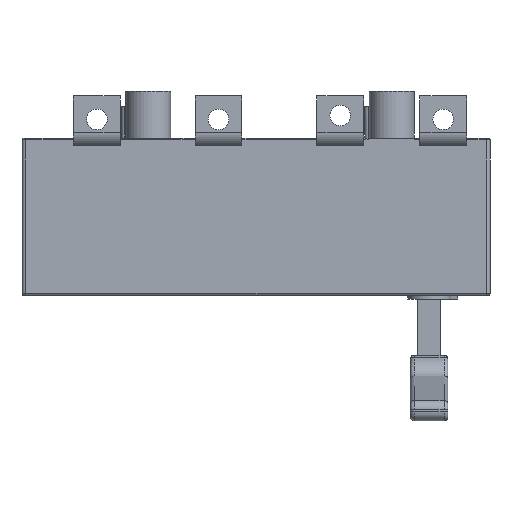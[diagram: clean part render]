
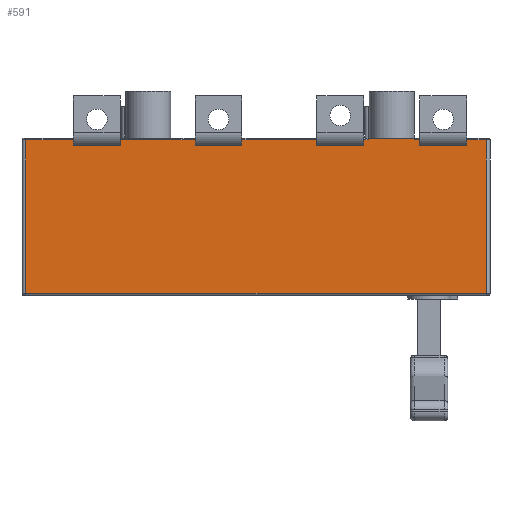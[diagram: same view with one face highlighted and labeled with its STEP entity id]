
A CAD part, front view. The second image highlights one B-rep face of the part: STEP entity #591.
In plain terms, the highlighted planar face has unit normal (0, -1, 0).
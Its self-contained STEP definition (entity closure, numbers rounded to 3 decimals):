
#178=PLANE('',#5112);
#591=ADVANCED_FACE('',(#900),#178,.T.);
#900=FACE_OUTER_BOUND('',#1239,.T.);
#1239=EDGE_LOOP('',(#2746,#2747,#2748,#2749,#2750,#2751,#2752,#2753,#2754,
#2755,#2756,#2757,#2758,#2759,#2760,#2761,#2762,#2763,#2764,#2765,#2766,
#2767,#2768,#2769,#2770,#2771));
#2746=ORIENTED_EDGE('',*,*,#3233,.F.);
#2747=ORIENTED_EDGE('',*,*,#3217,.F.);
#2748=ORIENTED_EDGE('',*,*,#3231,.F.);
#2749=ORIENTED_EDGE('',*,*,#3643,.T.);
#2750=ORIENTED_EDGE('',*,*,#3808,.T.);
#2751=ORIENTED_EDGE('',*,*,#3801,.F.);
#2752=ORIENTED_EDGE('',*,*,#3737,.F.);
#2753=ORIENTED_EDGE('',*,*,#3819,.T.);
#2754=ORIENTED_EDGE('',*,*,#3750,.T.);
#2755=ORIENTED_EDGE('',*,*,#3847,.T.);
#2756=ORIENTED_EDGE('',*,*,#3271,.T.);
#2757=ORIENTED_EDGE('',*,*,#3256,.F.);
#2758=ORIENTED_EDGE('',*,*,#3274,.T.);
#2759=ORIENTED_EDGE('',*,*,#3848,.T.);
#2760=ORIENTED_EDGE('',*,*,#3309,.F.);
#2761=ORIENTED_EDGE('',*,*,#3295,.F.);
#2762=ORIENTED_EDGE('',*,*,#3313,.F.);
#2763=ORIENTED_EDGE('',*,*,#3844,.T.);
#2764=ORIENTED_EDGE('',*,*,#3348,.F.);
#2765=ORIENTED_EDGE('',*,*,#3334,.F.);
#2766=ORIENTED_EDGE('',*,*,#3352,.F.);
#2767=ORIENTED_EDGE('',*,*,#3842,.T.);
#2768=ORIENTED_EDGE('',*,*,#3682,.F.);
#2769=ORIENTED_EDGE('',*,*,#3672,.T.);
#2770=ORIENTED_EDGE('',*,*,#3681,.T.);
#2771=ORIENTED_EDGE('',*,*,#3850,.T.);
#2789=VERTEX_POINT('',#6542);
#2790=VERTEX_POINT('',#6544);
#2799=VERTEX_POINT('',#6571);
#2800=VERTEX_POINT('',#6576);
#2818=VERTEX_POINT('',#6623);
#2820=VERTEX_POINT('',#6626);
#2829=VERTEX_POINT('',#6653);
#2831=VERTEX_POINT('',#6660);
#2849=VERTEX_POINT('',#6706);
#2850=VERTEX_POINT('',#6708);
#2859=VERTEX_POINT('',#6736);
#2861=VERTEX_POINT('',#6742);
#2879=VERTEX_POINT('',#6788);
#2880=VERTEX_POINT('',#6790);
#2889=VERTEX_POINT('',#6818);
#2891=VERTEX_POINT('',#6824);
#3084=VERTEX_POINT('',#7433);
#3086=VERTEX_POINT('',#7455);
#3093=VERTEX_POINT('',#7474);
#3103=VERTEX_POINT('',#7501);
#3107=VERTEX_POINT('',#7543);
#3155=VERTEX_POINT('',#7690);
#3156=VERTEX_POINT('',#7692);
#3163=VERTEX_POINT('',#7722);
#3166=VERTEX_POINT('',#7739);
#3201=VERTEX_POINT('',#7841);
#3217=EDGE_CURVE('',#2789,#2790,#3853,.T.);
#3231=EDGE_CURVE('',#2799,#2789,#3863,.T.);
#3233=EDGE_CURVE('',#2790,#2800,#3865,.T.);
#3256=EDGE_CURVE('',#2818,#2820,#3880,.T.);
#3271=EDGE_CURVE('',#2829,#2820,#3891,.T.);
#3274=EDGE_CURVE('',#2818,#2831,#3893,.T.);
#3295=EDGE_CURVE('',#2849,#2850,#3907,.T.);
#3309=EDGE_CURVE('',#2850,#2859,#3918,.T.);
#3313=EDGE_CURVE('',#2861,#2849,#3920,.T.);
#3334=EDGE_CURVE('',#2879,#2880,#3934,.T.);
#3348=EDGE_CURVE('',#2880,#2889,#3945,.T.);
#3352=EDGE_CURVE('',#2891,#2879,#3947,.T.);
#3643=EDGE_CURVE('',#2799,#3086,#4103,.T.);
#3672=EDGE_CURVE('',#3107,#3103,#4111,.T.);
#3681=EDGE_CURVE('',#3103,#3084,#4116,.T.);
#3682=EDGE_CURVE('',#3107,#3093,#4117,.T.);
#3737=EDGE_CURVE('',#3155,#3156,#4141,.T.);
#3750=EDGE_CURVE('',#3163,#3166,#4148,.T.);
#3801=EDGE_CURVE('',#3156,#3201,#4180,.T.);
#3808=EDGE_CURVE('',#3086,#3201,#4186,.T.);
#3819=EDGE_CURVE('',#3155,#3163,#4196,.T.);
#3842=EDGE_CURVE('',#2891,#3093,#4215,.T.);
#3844=EDGE_CURVE('',#2861,#2889,#4217,.T.);
#3847=EDGE_CURVE('',#3166,#2829,#4220,.T.);
#3848=EDGE_CURVE('',#2831,#2859,#4221,.T.);
#3850=EDGE_CURVE('',#3084,#2800,#4223,.T.);
#3853=LINE('',#6543,#4226);
#3863=LINE('',#6572,#4236);
#3865=LINE('',#6575,#4238);
#3880=LINE('',#6625,#4253);
#3891=LINE('',#6655,#4264);
#3893=LINE('',#6661,#4266);
#3907=LINE('',#6707,#4280);
#3918=LINE('',#6735,#4291);
#3920=LINE('',#6743,#4293);
#3934=LINE('',#6789,#4307);
#3945=LINE('',#6817,#4318);
#3947=LINE('',#6825,#4320);
#4103=LINE('',#7456,#4476);
#4111=LINE('',#7546,#4484);
#4116=LINE('',#7563,#4489);
#4117=LINE('',#7565,#4490);
#4141=LINE('',#7691,#4514);
#4148=LINE('',#7740,#4521);
#4180=LINE('',#7840,#4553);
#4186=LINE('',#7852,#4559);
#4196=LINE('',#7872,#4569);
#4215=LINE('',#7913,#4588);
#4217=LINE('',#7917,#4590);
#4220=LINE('',#7923,#4593);
#4221=LINE('',#7925,#4594);
#4223=LINE('',#7929,#4596);
#4226=VECTOR('',#5129,1.);
#4236=VECTOR('',#5157,1.);
#4238=VECTOR('',#5161,1.);
#4253=VECTOR('',#5206,1.);
#4264=VECTOR('',#5235,1.);
#4266=VECTOR('',#5241,1.);
#4280=VECTOR('',#5283,1.);
#4291=VECTOR('',#5310,1.);
#4293=VECTOR('',#5318,1.);
#4307=VECTOR('',#5360,1.);
#4318=VECTOR('',#5387,1.);
#4320=VECTOR('',#5395,1.);
#4476=VECTOR('',#6055,1.);
#4484=VECTOR('',#6119,1.);
#4489=VECTOR('',#6142,1.);
#4490=VECTOR('',#6145,1.);
#4514=VECTOR('',#6285,1.);
#4521=VECTOR('',#6306,1.);
#4553=VECTOR('',#6406,1.);
#4559=VECTOR('',#6418,1.);
#4569=VECTOR('',#6440,1.);
#4588=VECTOR('',#6495,1.);
#4590=VECTOR('',#6501,1.);
#4593=VECTOR('',#6510,1.);
#4594=VECTOR('',#6513,1.);
#4596=VECTOR('',#6519,1.);
#5112=AXIS2_PLACEMENT_3D('',#7930,#6520,#6521);
#5129=DIRECTION('',(1.,0.,0.));
#5157=DIRECTION('',(0.,0.,-1.));
#5161=DIRECTION('',(0.,0.,1.));
#5206=DIRECTION('',(1.,0.,0.));
#5235=DIRECTION('',(0.,0.,-1.));
#5241=DIRECTION('',(0.,0.,1.));
#5283=DIRECTION('',(1.,0.,0.));
#5310=DIRECTION('',(0.,0.,1.));
#5318=DIRECTION('',(0.,0.,-1.));
#5360=DIRECTION('',(1.,0.,0.));
#5387=DIRECTION('',(0.,0.,1.));
#5395=DIRECTION('',(0.,0.,-1.));
#6055=DIRECTION('',(-1.,0.,0.));
#6119=DIRECTION('',(1.,0.,0.));
#6142=DIRECTION('',(0.,0.,1.));
#6145=DIRECTION('',(0.,0.,1.));
#6285=DIRECTION('',(0.,0.,-1.));
#6306=DIRECTION('',(0.,0.,-1.));
#6406=DIRECTION('',(1.,0.,0.));
#6418=DIRECTION('',(0.,0.,1.));
#6440=DIRECTION('',(-1.,0.,0.));
#6495=DIRECTION('',(-1.,0.,0.));
#6501=DIRECTION('',(-1.,0.,0.));
#6510=DIRECTION('',(-1.,0.,0.));
#6513=DIRECTION('',(-1.,0.,0.));
#6519=DIRECTION('',(-1.,0.,0.));
#6520=DIRECTION('',(0.,-1.,0.));
#6521=DIRECTION('',(1.,0.,0.));
#6542=CARTESIAN_POINT('',(15.,-52.5,-4.118));
#6543=CARTESIAN_POINT('',(40.,-52.5,-4.118));
#6544=CARTESIAN_POINT('',(40.,-52.5,-4.118));
#6571=CARTESIAN_POINT('',(15.,-52.5,-1.));
#6572=CARTESIAN_POINT('',(15.,-52.5,4.));
#6575=CARTESIAN_POINT('',(40.,-52.5,4.));
#6576=CARTESIAN_POINT('',(40.,-52.5,-1.));
#6623=CARTESIAN_POINT('',(-40.,-52.5,-4.118));
#6625=CARTESIAN_POINT('',(-15.,-52.5,-4.118));
#6626=CARTESIAN_POINT('',(-15.,-52.5,-4.118));
#6653=CARTESIAN_POINT('',(-15.,-52.5,-1.));
#6655=CARTESIAN_POINT('',(-15.,-52.5,4.));
#6660=CARTESIAN_POINT('',(-40.,-52.5,-1.));
#6661=CARTESIAN_POINT('',(-40.,-52.5,4.));
#6706=CARTESIAN_POINT('',(-105.,-52.5,-4.118));
#6707=CARTESIAN_POINT('',(-80.,-52.5,-4.118));
#6708=CARTESIAN_POINT('',(-80.,-52.5,-4.118));
#6735=CARTESIAN_POINT('',(-80.,-52.5,4.));
#6736=CARTESIAN_POINT('',(-80.,-52.5,-1.));
#6742=CARTESIAN_POINT('',(-105.,-52.5,-1.));
#6743=CARTESIAN_POINT('',(-105.,-52.5,4.));
#6788=CARTESIAN_POINT('',(-170.,-52.5,-4.118));
#6789=CARTESIAN_POINT('',(-145.,-52.5,-4.118));
#6790=CARTESIAN_POINT('',(-145.,-52.5,-4.118));
#6817=CARTESIAN_POINT('',(-145.,-52.5,4.));
#6818=CARTESIAN_POINT('',(-145.,-52.5,-1.));
#6824=CARTESIAN_POINT('',(-170.,-52.5,-1.));
#6825=CARTESIAN_POINT('',(-170.,-52.5,4.));
#7433=CARTESIAN_POINT('',(50.5,-52.5,-1.));
#7455=CARTESIAN_POINT('',(12.,-52.5,-1.));
#7456=CARTESIAN_POINT('',(12.,-52.5,-1.));
#7474=CARTESIAN_POINT('',(-195.5,-52.5,-1.));
#7501=CARTESIAN_POINT('',(50.5,-52.5,-83.));
#7543=CARTESIAN_POINT('',(-195.5,-52.5,-83.));
#7546=CARTESIAN_POINT('',(-12.,-52.5,-83.));
#7563=CARTESIAN_POINT('',(50.5,-52.5,-84.));
#7565=CARTESIAN_POINT('',(-195.5,-52.5,-84.));
#7690=CARTESIAN_POINT('',(-12.,-52.5,17.));
#7691=CARTESIAN_POINT('',(-12.,-52.5,25.));
#7692=CARTESIAN_POINT('',(-12.,-52.5,0.));
#7722=CARTESIAN_POINT('',(-12.5,-52.5,17.));
#7739=CARTESIAN_POINT('',(-12.5,-52.5,-1.));
#7740=CARTESIAN_POINT('',(-12.5,-52.5,4.));
#7840=CARTESIAN_POINT('',(50.5,-52.5,0.));
#7841=CARTESIAN_POINT('',(12.,-52.5,0.));
#7852=CARTESIAN_POINT('',(12.,-52.5,4.));
#7872=CARTESIAN_POINT('',(7.5,-52.5,17.));
#7913=CARTESIAN_POINT('',(-195.5,-52.5,-1.));
#7917=CARTESIAN_POINT('',(-195.5,-52.5,-1.));
#7923=CARTESIAN_POINT('',(-195.5,-52.5,-1.));
#7925=CARTESIAN_POINT('',(-195.5,-52.5,-1.));
#7929=CARTESIAN_POINT('',(12.,-52.5,-1.));
#7930=CARTESIAN_POINT('',(-12.,-52.5,4.));
